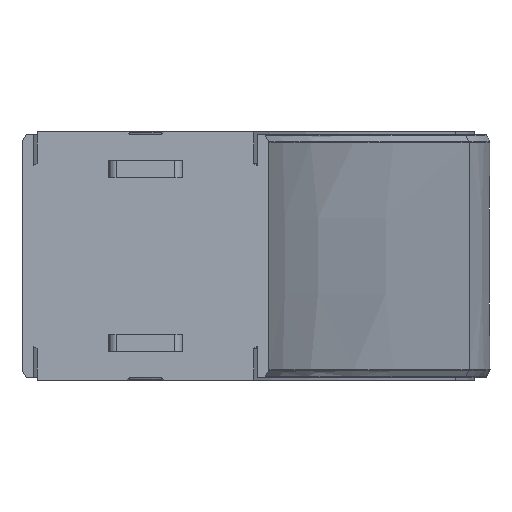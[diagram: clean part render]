
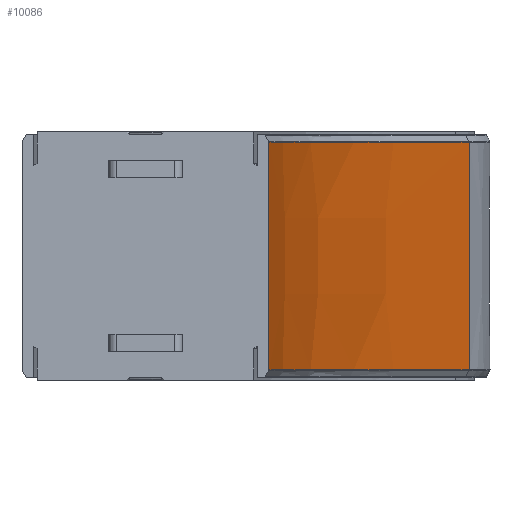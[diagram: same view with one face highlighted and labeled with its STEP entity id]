
A CAD part, left-side view. The second image highlights one B-rep face of the part: STEP entity #10086.
In plain terms, the highlighted free-form (B-spline) face has degree [3, 3] with [4, 7] control points.
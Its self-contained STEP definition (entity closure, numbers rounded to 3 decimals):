
#631 = CARTESIAN_POINT ( 'NONE',  ( -192.895, -7.913, 38.866 ) ) ;
#689 = CARTESIAN_POINT ( 'NONE',  ( -33.299, -71.923, 0. ) ) ;
#699 = ORIENTED_EDGE ( 'NONE', *, *, #6836, .F. ) ;
#764 = EDGE_CURVE ( 'NONE', #10444, #1234, #7390, .T. ) ;
#780 = CARTESIAN_POINT ( 'NONE',  ( -241.24, -3.502, -38.866 ) ) ;
#1184 = CARTESIAN_POINT ( 'NONE',  ( -241.24, -3.502, -38.866 ) ) ;
#1234 = VERTEX_POINT ( 'NONE', #8147 ) ;
#1341 = CARTESIAN_POINT ( 'NONE',  ( -33.299, -71.923, 38.866 ) ) ;
#1701 = B_SPLINE_SURFACE_WITH_KNOTS ( 'NONE', 3, 3, ( 
 ( #3068, #1798, #1894, #11210, #3157, #10224, #780 ),
 ( #4108, #4255, #12479, #14774, #13507, #7790, #12334 ),
 ( #14833, #12425, #8988, #8934, #10177, #5399, #7834 ),
 ( #6530, #5299, #12377, #3017, #631, #4307, #4209 ) ),
 .UNSPECIFIED., .F., .F., .F.,
 ( 4, 4 ),
 ( 4, 1, 1, 1, 4 ),
 ( 0.001, 0.398 ),
 ( 0., 0.281, 0.56, 0.78, 1. ),
 .UNSPECIFIED. ) ;
#1704 = CARTESIAN_POINT ( 'NONE',  ( -51.883, -62.499, -38.866 ) ) ;
#1798 = CARTESIAN_POINT ( 'NONE',  ( -51.883, -62.499, -38.866 ) ) ;
#1814 = CARTESIAN_POINT ( 'NONE',  ( -33.299, -71.923, -38.866 ) ) ;
#1846 = CARTESIAN_POINT ( 'NONE',  ( -141.317, -20.182, 38.866 ) ) ;
#1863 = DIRECTION ( 'NONE',  ( 0., 0., 1. ) ) ;
#1894 = CARTESIAN_POINT ( 'NONE',  ( -88.5, -42.387, -38.866 ) ) ;
#2089 = B_SPLINE_CURVE_WITH_KNOTS ( 'NONE', 3,
 ( #10091, #1704, #2882, #11270, #4221, #13581, #13631 ),
 .UNSPECIFIED., .F., .F.,
 ( 4, 1, 1, 1, 4 ),
 ( 0., 0.281, 0.56, 0.78, 1. ),
 .UNSPECIFIED. ) ;
#2392 = ORIENTED_EDGE ( 'NONE', *, *, #764, .T. ) ;
#2401 = CARTESIAN_POINT ( 'NONE',  ( -241.24, -3.502, -12.955 ) ) ;
#2587 = CARTESIAN_POINT ( 'NONE',  ( -241.24, -3.502, 38.866 ) ) ;
#2882 = CARTESIAN_POINT ( 'NONE',  ( -88.5, -42.387, -38.866 ) ) ;
#3017 = CARTESIAN_POINT ( 'NONE',  ( -141.317, -20.182, 38.866 ) ) ;
#3068 = CARTESIAN_POINT ( 'NONE',  ( -33.299, -71.923, -38.866 ) ) ;
#3157 = CARTESIAN_POINT ( 'NONE',  ( -192.895, -7.913, -38.866 ) ) ;
#3436 = EDGE_CURVE ( 'NONE', #5573, #1234, #9972, .T. ) ;
#4108 = CARTESIAN_POINT ( 'NONE',  ( -33.299, -71.923, -12.955 ) ) ;
#4158 = CARTESIAN_POINT ( 'NONE',  ( -33.299, -71.923, 38.866 ) ) ;
#4209 = CARTESIAN_POINT ( 'NONE',  ( -241.24, -3.502, 38.866 ) ) ;
#4221 = CARTESIAN_POINT ( 'NONE',  ( -192.895, -7.913, -38.866 ) ) ;
#4255 = CARTESIAN_POINT ( 'NONE',  ( -51.878, -62.502, -12.955 ) ) ;
#4307 = CARTESIAN_POINT ( 'NONE',  ( -225.102, -4.372, 38.866 ) ) ;
#4591 = CARTESIAN_POINT ( 'NONE',  ( -225.102, -4.372, 38.866 ) ) ;
#4816 = LINE ( 'NONE', #689, #9971 ) ;
#4967 = CARTESIAN_POINT ( 'NONE',  ( -241.24, -3.502, 12.955 ) ) ;
#5299 = CARTESIAN_POINT ( 'NONE',  ( -51.883, -62.499, 38.866 ) ) ;
#5348 = CARTESIAN_POINT ( 'NONE',  ( -51.883, -62.499, 38.866 ) ) ;
#5399 = CARTESIAN_POINT ( 'NONE',  ( -225.363, -4.358, 12.955 ) ) ;
#5573 = VERTEX_POINT ( 'NONE', #1184 ) ;
#5794 = ORIENTED_EDGE ( 'NONE', *, *, #6769, .T. ) ;
#6529 = CARTESIAN_POINT ( 'NONE',  ( -88.5, -42.387, 38.866 ) ) ;
#6530 = CARTESIAN_POINT ( 'NONE',  ( -33.299, -71.923, 38.866 ) ) ;
#6769 = EDGE_CURVE ( 'NONE', #6850, #10444, #4816, .T. ) ;
#6836 = EDGE_CURVE ( 'NONE', #6850, #5573, #2089, .T. ) ;
#6850 = VERTEX_POINT ( 'NONE', #1814 ) ;
#7390 = B_SPLINE_CURVE_WITH_KNOTS ( 'NONE', 3,
 ( #4158, #5348, #6529, #1846, #11255, #4591, #8499 ),
 .UNSPECIFIED., .F., .F.,
 ( 4, 1, 1, 1, 4 ),
 ( 0., 0.281, 0.56, 0.78, 1. ),
 .UNSPECIFIED. ) ;
#7790 = CARTESIAN_POINT ( 'NONE',  ( -225.363, -4.358, -12.955 ) ) ;
#7834 = CARTESIAN_POINT ( 'NONE',  ( -241.24, -3.502, 12.955 ) ) ;
#8147 = CARTESIAN_POINT ( 'NONE',  ( -241.24, -3.502, 38.866 ) ) ;
#8499 = CARTESIAN_POINT ( 'NONE',  ( -241.24, -3.502, 38.866 ) ) ;
#8934 = CARTESIAN_POINT ( 'NONE',  ( -141.359, -20.18, 12.955 ) ) ;
#8988 = CARTESIAN_POINT ( 'NONE',  ( -88.489, -42.386, 12.955 ) ) ;
#9563 = FACE_OUTER_BOUND ( 'NONE', #12824, .T. ) ;
#9971 = VECTOR ( 'NONE', #1863, 1000. ) ;
#9972 = B_SPLINE_CURVE_WITH_KNOTS ( 'NONE', 3,
 ( #13191, #2401, #4967, #2587 ),
 .UNSPECIFIED., .F., .F.,
 ( 4, 4 ),
 ( 0.001, 0.398 ),
 .UNSPECIFIED. ) ;
#10086 = ADVANCED_FACE ( 'NONE', ( #9563 ), #1701, .T. ) ;
#10091 = CARTESIAN_POINT ( 'NONE',  ( -33.299, -71.923, -38.866 ) ) ;
#10177 = CARTESIAN_POINT ( 'NONE',  ( -192.775, -7.919, 12.955 ) ) ;
#10224 = CARTESIAN_POINT ( 'NONE',  ( -225.102, -4.372, -38.866 ) ) ;
#10444 = VERTEX_POINT ( 'NONE', #1341 ) ;
#10890 = ORIENTED_EDGE ( 'NONE', *, *, #3436, .F. ) ;
#11210 = CARTESIAN_POINT ( 'NONE',  ( -141.317, -20.182, -38.866 ) ) ;
#11255 = CARTESIAN_POINT ( 'NONE',  ( -192.895, -7.913, 38.866 ) ) ;
#11270 = CARTESIAN_POINT ( 'NONE',  ( -141.317, -20.182, -38.866 ) ) ;
#12334 = CARTESIAN_POINT ( 'NONE',  ( -241.24, -3.502, -12.955 ) ) ;
#12377 = CARTESIAN_POINT ( 'NONE',  ( -88.5, -42.387, 38.866 ) ) ;
#12425 = CARTESIAN_POINT ( 'NONE',  ( -51.878, -62.502, 12.955 ) ) ;
#12479 = CARTESIAN_POINT ( 'NONE',  ( -88.489, -42.386, -12.955 ) ) ;
#12824 = EDGE_LOOP ( 'NONE', ( #5794, #2392, #10890, #699 ) ) ;
#13191 = CARTESIAN_POINT ( 'NONE',  ( -241.24, -3.502, -38.866 ) ) ;
#13507 = CARTESIAN_POINT ( 'NONE',  ( -192.775, -7.919, -12.955 ) ) ;
#13581 = CARTESIAN_POINT ( 'NONE',  ( -225.102, -4.372, -38.866 ) ) ;
#13631 = CARTESIAN_POINT ( 'NONE',  ( -241.24, -3.502, -38.866 ) ) ;
#14774 = CARTESIAN_POINT ( 'NONE',  ( -141.359, -20.18, -12.955 ) ) ;
#14833 = CARTESIAN_POINT ( 'NONE',  ( -33.299, -71.923, 12.955 ) ) ;
